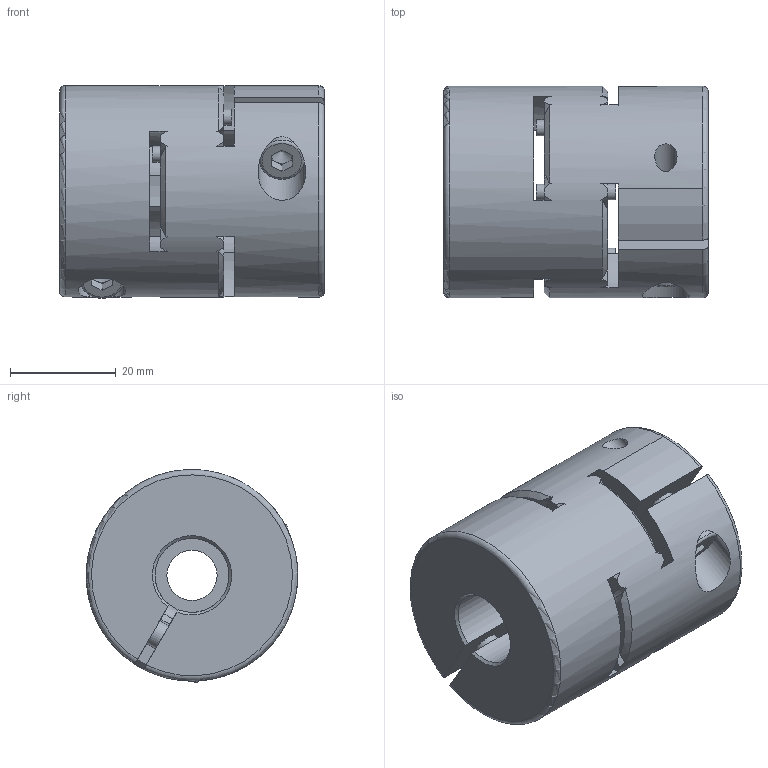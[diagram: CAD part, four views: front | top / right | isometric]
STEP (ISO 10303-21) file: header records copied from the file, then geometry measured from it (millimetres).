
FILE_DESCRIPTION(/* description */ ('Unknown','CAx-IF Rec.Pracs.---Representation and Presentation of Product Manufacturing Information (PMI)---4.0---2014-10-13','CAx-IF Rec.Pracs.---3D Tessellated Geometry---0.4---2014-09-14','2;1'),/* implementation_level */ '2;1');
FILE_NAME(/* name */ 'EKM - VA 12',/* time_stamp */ '2023-05-26T10:21:34+02:00',/* author */ ('Unknown'),/* organization */ ('Unknown'),/* preprocessor_version */ 'ST-DEVELOPER v18.102',/* originating_system */ 'Solid Edge',/* authorisation */ 'Unknown');
FILE_SCHEMA (('AP242_MANAGED_MODEL_BASED_3D_ENGINEERING_MIM_LF { 1 0 10303 442 1 1 4 }'));
Length unit declared in the file: millimetre
Products named in the file (1): EKM - VA 12
Bounding box: 50 x 40 x 40.26 mm (x, y, z)
Volume: 48753.6 mm3; surface area: 16903.6 mm2
Topology: 1 solids, 1 shells, 189 faces, 526 edges, 338 vertices
Faces by surface type: cylinder 71, cone 56, plane 56, torus 6
Full cylindrical faces by diameter (mm): 3 x6, 4.2 x2, 5 x2, 5.4 x2, 8.5 x2, 9 x2, 9.5 x1, 18 x2, 40 x1
Entity records: 7506 total; most frequent: CARTESIAN_POINT 1576, ORIENTED_EDGE 964, DIRECTION 936, EDGE_CURVE 482, AXIS2_PLACEMENT_3D 400, VERTEX_POINT 326, FACE_BOUND 244, EDGE_LOOP 242
